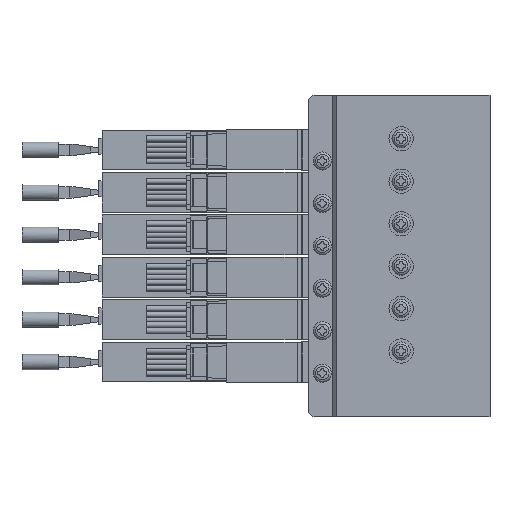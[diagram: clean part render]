
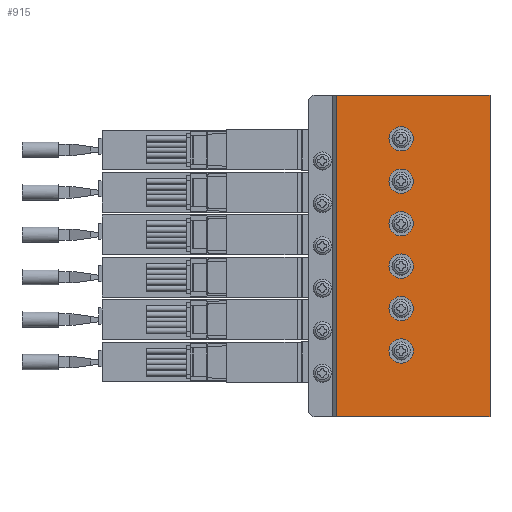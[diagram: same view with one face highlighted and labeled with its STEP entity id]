
A CAD part, left-side view. The second image highlights one B-rep face of the part: STEP entity #915.
In plain terms, the highlighted planar face has unit normal (-1, 0, 0) as drawn and (1, 0, 0) by its records, which use the part's own axes.
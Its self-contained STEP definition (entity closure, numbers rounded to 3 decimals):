
#915=ADVANCED_FACE('',(#2095,#2096,#2097,#2098,#2099,#2100,#2101),#2102,.F.);
#2095=FACE_OUTER_BOUND('',#3719,.T.);
#2096=FACE_BOUND('',#3720,.T.);
#2097=FACE_BOUND('',#3721,.T.);
#2098=FACE_BOUND('',#3722,.T.);
#2099=FACE_BOUND('',#3723,.T.);
#2100=FACE_BOUND('',#3724,.T.);
#2101=FACE_BOUND('',#3725,.T.);
#2102=PLANE('',#3726);
#3719=EDGE_LOOP('',(#7756,#7757,#7758,#7759));
#3720=EDGE_LOOP('',(#7760));
#3721=EDGE_LOOP('',(#7761));
#3722=EDGE_LOOP('',(#7762));
#3723=EDGE_LOOP('',(#7763));
#3724=EDGE_LOOP('',(#7764));
#3725=EDGE_LOOP('',(#7765));
#3726=AXIS2_PLACEMENT_3D('',#7766,#7767,#7768);
#7756=ORIENTED_EDGE('',*,*,#10821,.T.);
#7757=ORIENTED_EDGE('',*,*,#10822,.F.);
#7758=ORIENTED_EDGE('',*,*,#10823,.F.);
#7759=ORIENTED_EDGE('',*,*,#10824,.T.);
#7760=ORIENTED_EDGE('',*,*,#10810,.F.);
#7761=ORIENTED_EDGE('',*,*,#10825,.F.);
#7762=ORIENTED_EDGE('',*,*,#10826,.F.);
#7763=ORIENTED_EDGE('',*,*,#10827,.F.);
#7764=ORIENTED_EDGE('',*,*,#10828,.F.);
#7765=ORIENTED_EDGE('',*,*,#10829,.F.);
#7766=CARTESIAN_POINT('',(19.0,0.0,39.75));
#7767=DIRECTION('',(-1.0,0.0,0.0));
#7768=DIRECTION('',(0.0,0.0,1.0));
#10810=EDGE_CURVE('',#13183,#13183,#13184,.T.);
#10821=EDGE_CURVE('',#13202,#13203,#13204,.T.);
#10822=EDGE_CURVE('',#13205,#13203,#13206,.T.);
#10823=EDGE_CURVE('',#13207,#13205,#13208,.T.);
#10824=EDGE_CURVE('',#13207,#13202,#13209,.T.);
#10825=EDGE_CURVE('',#13210,#13210,#13211,.T.);
#10826=EDGE_CURVE('',#13212,#13212,#13213,.T.);
#10827=EDGE_CURVE('',#13214,#13214,#13215,.T.);
#10828=EDGE_CURVE('',#13216,#13216,#13217,.T.);
#10829=EDGE_CURVE('',#13218,#13218,#13219,.T.);
#13183=VERTEX_POINT('',#17122);
#13184=CIRCLE('',#17123,3.0);
#13202=VERTEX_POINT('',#17227);
#13203=VERTEX_POINT('',#17228);
#13204=LINE('',#17229,#17230);
#13205=VERTEX_POINT('',#17231);
#13206=LINE('',#17232,#17233);
#13207=VERTEX_POINT('',#17234);
#13208=LINE('',#17235,#17236);
#13209=LINE('',#17237,#17238);
#13210=VERTEX_POINT('',#17239);
#13211=CIRCLE('',#17240,3.0);
#13212=VERTEX_POINT('',#17241);
#13213=CIRCLE('',#17242,3.0);
#13214=VERTEX_POINT('',#17243);
#13215=CIRCLE('',#17244,3.0);
#13216=VERTEX_POINT('',#17245);
#13217=CIRCLE('',#17246,3.0);
#13218=VERTEX_POINT('',#17247);
#13219=CIRCLE('',#17248,3.0);
#17122=CARTESIAN_POINT('',(19.0,22.0,20.5));
#17123=AXIS2_PLACEMENT_3D('',#20881,#20882,#20883);
#17227=CARTESIAN_POINT('',(19.0,0.0,-39.75));
#17228=CARTESIAN_POINT('',(19.0,38.0,-39.75));
#17229=CARTESIAN_POINT('',(19.0,0.0,-39.75));
#17230=VECTOR('',#20902,1.0);
#17231=CARTESIAN_POINT('',(19.0,38.0,39.75));
#17232=CARTESIAN_POINT('',(19.0,38.0,39.75));
#17233=VECTOR('',#20903,1.0);
#17234=CARTESIAN_POINT('',(19.0,0.0,39.75));
#17235=CARTESIAN_POINT('',(19.0,0.0,39.75));
#17236=VECTOR('',#20904,1.0);
#17237=CARTESIAN_POINT('',(19.0,0.0,39.75));
#17238=VECTOR('',#20905,1.0);
#17239=CARTESIAN_POINT('',(19.0,22.0,-32.0));
#17240=AXIS2_PLACEMENT_3D('',#20906,#20907,#20908);
#17241=CARTESIAN_POINT('',(19.0,22.0,-21.5));
#17242=AXIS2_PLACEMENT_3D('',#20909,#20910,#20911);
#17243=CARTESIAN_POINT('',(19.0,22.0,-11.0));
#17244=AXIS2_PLACEMENT_3D('',#20912,#20913,#20914);
#17245=CARTESIAN_POINT('',(19.0,22.0,-0.5));
#17246=AXIS2_PLACEMENT_3D('',#20915,#20916,#20917);
#17247=CARTESIAN_POINT('',(19.0,22.0,10.0));
#17248=AXIS2_PLACEMENT_3D('',#20918,#20919,#20920);
#20881=CARTESIAN_POINT('',(19.0,22.0,23.5));
#20882=DIRECTION('',(1.0,0.0,0.0));
#20883=DIRECTION('',(0.0,0.0,-1.0));
#20902=DIRECTION('',(0.0,1.0,0.0));
#20903=DIRECTION('',(0.0,0.0,-1.0));
#20904=DIRECTION('',(0.0,1.0,0.0));
#20905=DIRECTION('',(0.0,0.0,-1.0));
#20906=CARTESIAN_POINT('',(19.0,22.0,-29.0));
#20907=DIRECTION('',(1.0,0.0,0.0));
#20908=DIRECTION('',(0.0,0.0,-1.0));
#20909=CARTESIAN_POINT('',(19.0,22.0,-18.5));
#20910=DIRECTION('',(1.0,0.0,0.0));
#20911=DIRECTION('',(0.0,0.0,-1.0));
#20912=CARTESIAN_POINT('',(19.0,22.0,-8.0));
#20913=DIRECTION('',(1.0,0.0,0.0));
#20914=DIRECTION('',(0.0,0.0,-1.0));
#20915=CARTESIAN_POINT('',(19.0,22.0,2.5));
#20916=DIRECTION('',(1.0,0.0,0.0));
#20917=DIRECTION('',(0.0,0.0,-1.0));
#20918=CARTESIAN_POINT('',(19.0,22.0,13.0));
#20919=DIRECTION('',(1.0,0.0,0.0));
#20920=DIRECTION('',(0.0,0.0,-1.0));
